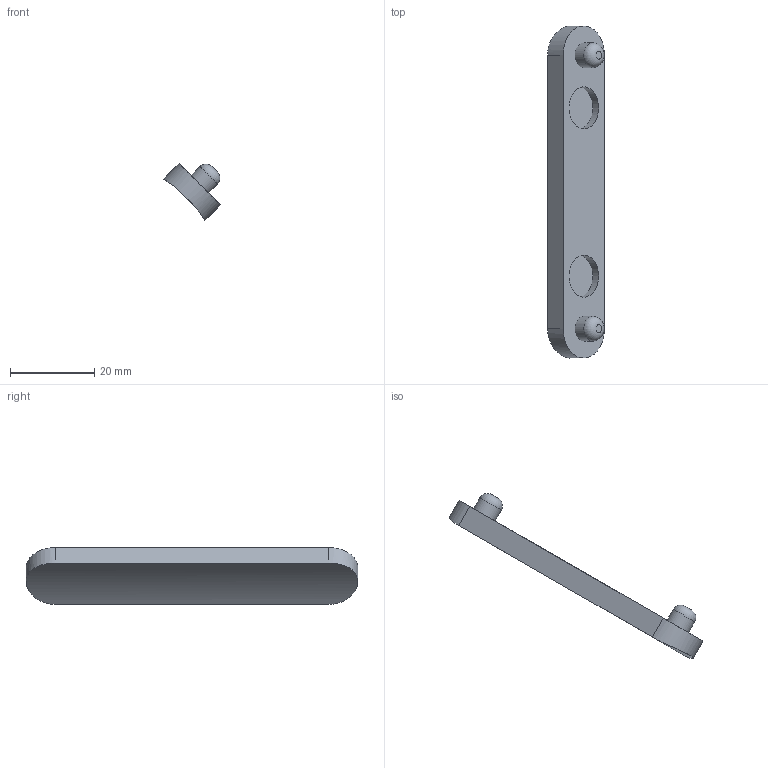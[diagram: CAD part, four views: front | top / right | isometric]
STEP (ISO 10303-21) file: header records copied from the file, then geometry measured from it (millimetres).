
FILE_DESCRIPTION (( 'STEP AP214' ), '1' );
FILE_NAME ('MONO_038-p227_02.STEP', '2026-03-24T01:27:58', ( '' ), ( '' ), 'SwSTEP 2.0', 'SolidWorks 2024', '' );
FILE_SCHEMA (( 'AUTOMOTIVE_DESIGN' ));
Length unit declared in the file: millimetre
Products named in the file (1): MONO_038-p227_02
Bounding box: 13.52 x 78.9 x 13.52 mm (x, y, z)
Volume: 4923.2 mm3; surface area: 3283.8 mm2
Topology: 1 solids, 1 shells, 16 faces, 28 edges, 18 vertices
Faces by surface type: cylinder 7, plane 7, torus 2
Full cylindrical faces by diameter (mm): 5.9 x2, 10 x2
Entity records: 465 total; most frequent: CARTESIAN_POINT 145, DIRECTION 66, ORIENTED_EDGE 44, AXIS2_PLACEMENT_3D 29, EDGE_LOOP 26, FACE_OUTER_BOUND 22, EDGE_CURVE 22, VERTEX_POINT 18
